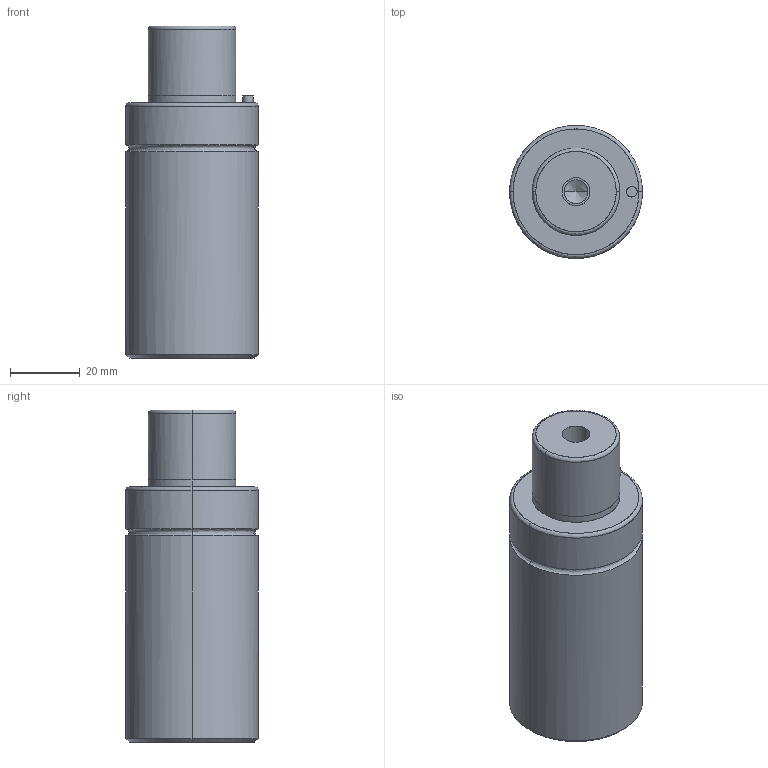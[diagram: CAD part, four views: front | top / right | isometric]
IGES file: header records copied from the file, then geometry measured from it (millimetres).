
Global section: file name: E:\UnigraphicsGraphicData\MISUMI_PRESS-PARTS\IGES\3d_gsm38-20_03919_r00.igs; native system: NX V5.0; preprocessor: UGS NX IGES V5.0; author: MISUMI; date: 20110105.160812; units: millimetre
Bounding box: 38 x 37.95 x 95 mm (x, y, z)
Surface area: 13688.2 mm2 (no closed solid volume)
Topology: 0 solids, 0 shells, 50 faces, 328 edges, 320 vertices
Faces by surface type: bspline 50
